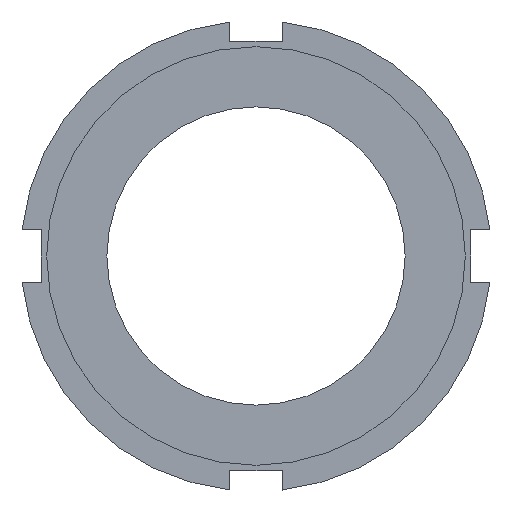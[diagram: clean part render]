
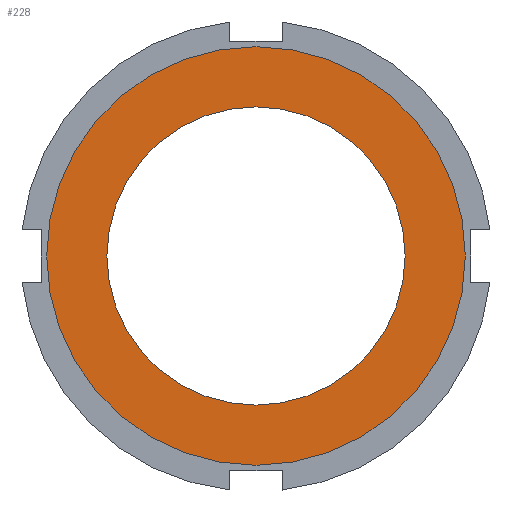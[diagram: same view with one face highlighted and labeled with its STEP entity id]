
A CAD part, left-side view. The second image highlights one B-rep face of the part: STEP entity #228.
In plain terms, the highlighted planar face has unit normal (-1, 0, 0).
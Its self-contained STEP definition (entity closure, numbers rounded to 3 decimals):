
#1 = VERTEX_POINT ( 'NONE', #324 ) ;
#23 = ORIENTED_EDGE ( 'NONE', *, *, #105, .T. ) ;
#29 = VERTEX_POINT ( 'NONE', #485 ) ;
#105 = EDGE_CURVE ( 'NONE', #29, #222, #642, .T. ) ;
#123 = EDGE_LOOP ( 'NONE', ( #23, #252 ) ) ;
#196 = ORIENTED_EDGE ( 'NONE', *, *, #218, .F. ) ;
#204 = ORIENTED_EDGE ( 'NONE', *, *, #237, .F. ) ;
#218 = EDGE_CURVE ( 'NONE', #1, #235, #417, .T. ) ;
#222 = VERTEX_POINT ( 'NONE', #427 ) ;
#228 = ADVANCED_FACE ( 'NONE', ( #465, #466 ), #467, .F. ) ;
#235 = VERTEX_POINT ( 'NONE', #512 ) ;
#237 = EDGE_CURVE ( 'NONE', #235, #1, #513, .T. ) ;
#252 = ORIENTED_EDGE ( 'NONE', *, *, #255, .T. ) ;
#255 = EDGE_CURVE ( 'NONE', #222, #29, #637, .T. ) ;
#302 = EDGE_LOOP ( 'NONE', ( #204, #196 ) ) ;
#324 = CARTESIAN_POINT ( 'NONE',  ( 0., 0., -14.25 ) ) ;
#417 = CIRCLE ( 'NONE', #418, 14.25 ) ;
#418 = AXIS2_PLACEMENT_3D ( 'NONE', #419, #420, #421 ) ;
#419 = CARTESIAN_POINT ( 'NONE',  ( 0., 0., 0. ) ) ;
#420 = DIRECTION ( 'NONE',  ( -1., 0., 0. ) ) ;
#421 = DIRECTION ( 'NONE',  ( 0., 0., 1. ) ) ;
#427 = CARTESIAN_POINT ( 'NONE',  ( 0., 0., -20. ) ) ;
#465 = FACE_BOUND ( 'NONE', #302, .T. ) ;
#466 = FACE_OUTER_BOUND ( 'NONE', #123, .T. ) ;
#467 = PLANE ( 'NONE',  #468 ) ;
#468 = AXIS2_PLACEMENT_3D ( 'NONE', #469, #470, #471 ) ;
#469 = CARTESIAN_POINT ( 'NONE',  ( 0., 14.25, 0. ) ) ;
#470 = DIRECTION ( 'NONE',  ( 1., 0., 0. ) ) ;
#471 = DIRECTION ( 'NONE',  ( 0., 0., -1. ) ) ;
#485 = CARTESIAN_POINT ( 'NONE',  ( 0., 0., 20. ) ) ;
#512 = CARTESIAN_POINT ( 'NONE',  ( 0., 0., 14.25 ) ) ;
#513 = CIRCLE ( 'NONE', #514, 14.25 ) ;
#514 = AXIS2_PLACEMENT_3D ( 'NONE', #515, #516, #517 ) ;
#515 = CARTESIAN_POINT ( 'NONE',  ( 0., 0., 0. ) ) ;
#516 = DIRECTION ( 'NONE',  ( -1., 0., 0. ) ) ;
#517 = DIRECTION ( 'NONE',  ( 0., 0., 1. ) ) ;
#637 = CIRCLE ( 'NONE', #638, 20. ) ;
#638 = AXIS2_PLACEMENT_3D ( 'NONE', #639, #640, #641 ) ;
#639 = CARTESIAN_POINT ( 'NONE',  ( 0., 0., 0. ) ) ;
#640 = DIRECTION ( 'NONE',  ( -1., 0., 0. ) ) ;
#641 = DIRECTION ( 'NONE',  ( 0., 0., 1. ) ) ;
#642 = CIRCLE ( 'NONE', #643, 20. ) ;
#643 = AXIS2_PLACEMENT_3D ( 'NONE', #644, #645, #646 ) ;
#644 = CARTESIAN_POINT ( 'NONE',  ( 0., 0., 0. ) ) ;
#645 = DIRECTION ( 'NONE',  ( -1., 0., 0. ) ) ;
#646 = DIRECTION ( 'NONE',  ( 0., 0., 1. ) ) ;
